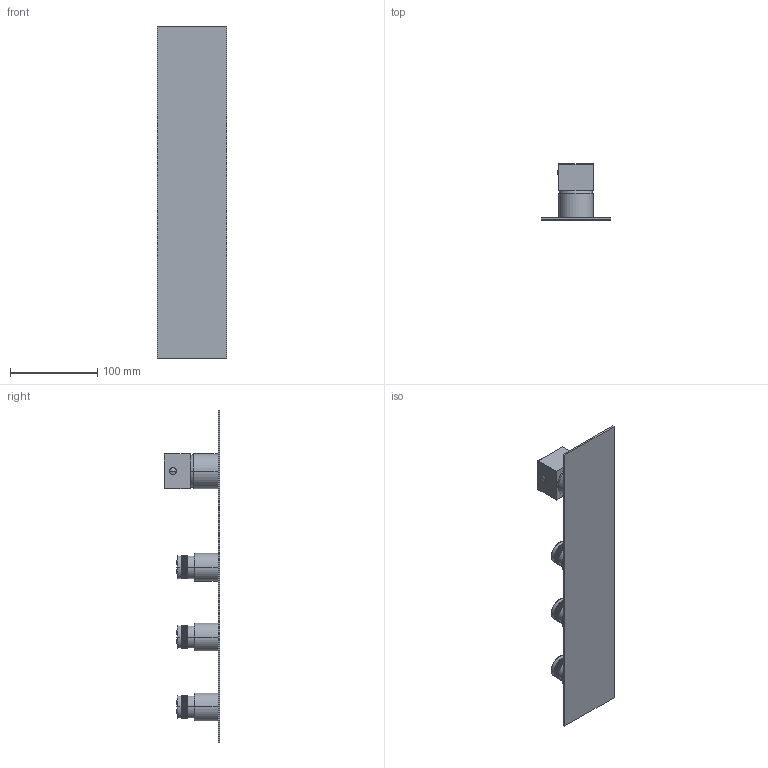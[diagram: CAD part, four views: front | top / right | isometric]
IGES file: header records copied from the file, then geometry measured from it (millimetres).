
Start section:  PTC IGES file: 35000v3.igs
Global section: file name: 35000v3.igs; native system: Creo Parametric by PTC Inc.; preprocessor: 2022014; author: carloff; organization: Unknown; date: 20260305.114742; units: millimetre
Bounding box: 80 x 63.7 x 380 mm (x, y, z)
Surface area: 85931.2 mm2 (no closed solid volume)
Topology: 0 solids, 0 shells, 5104 faces, 24778 edges, 24770 vertices
Faces by surface type: bspline 4036, revolution 1068
